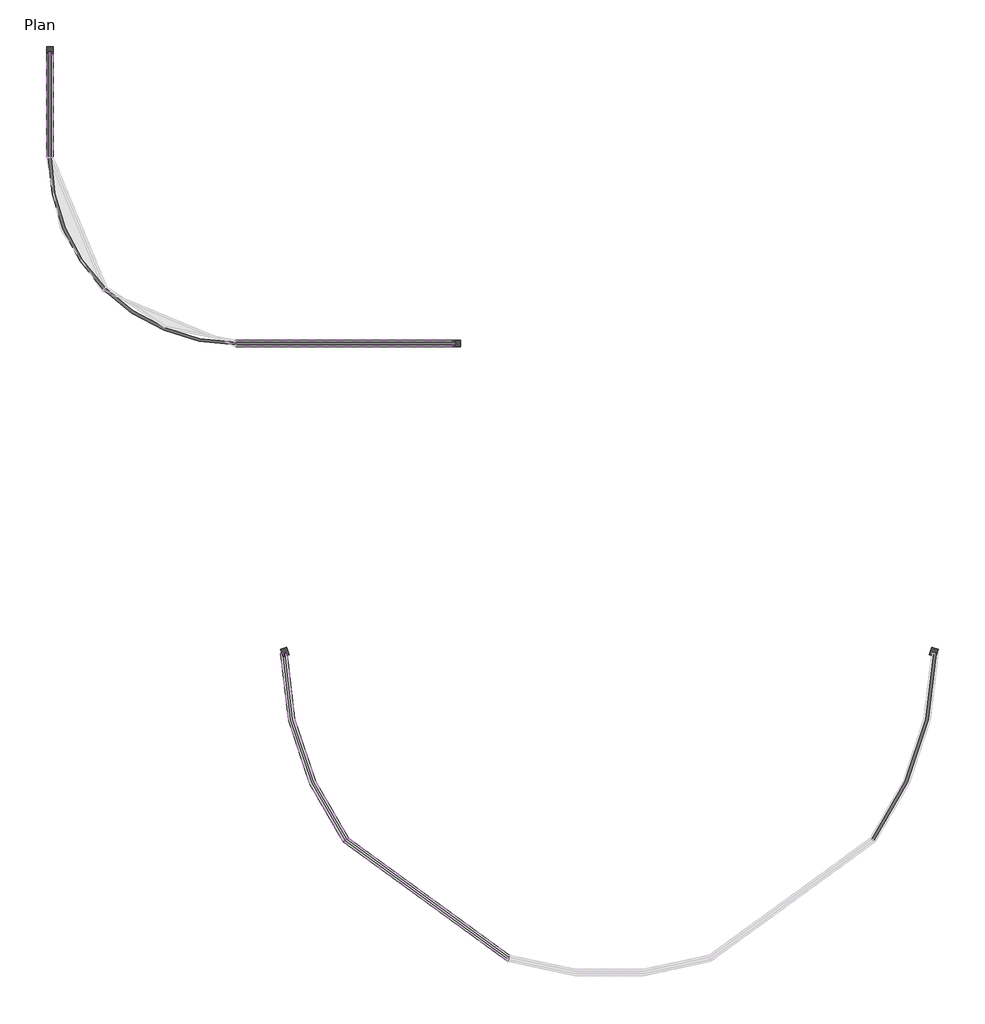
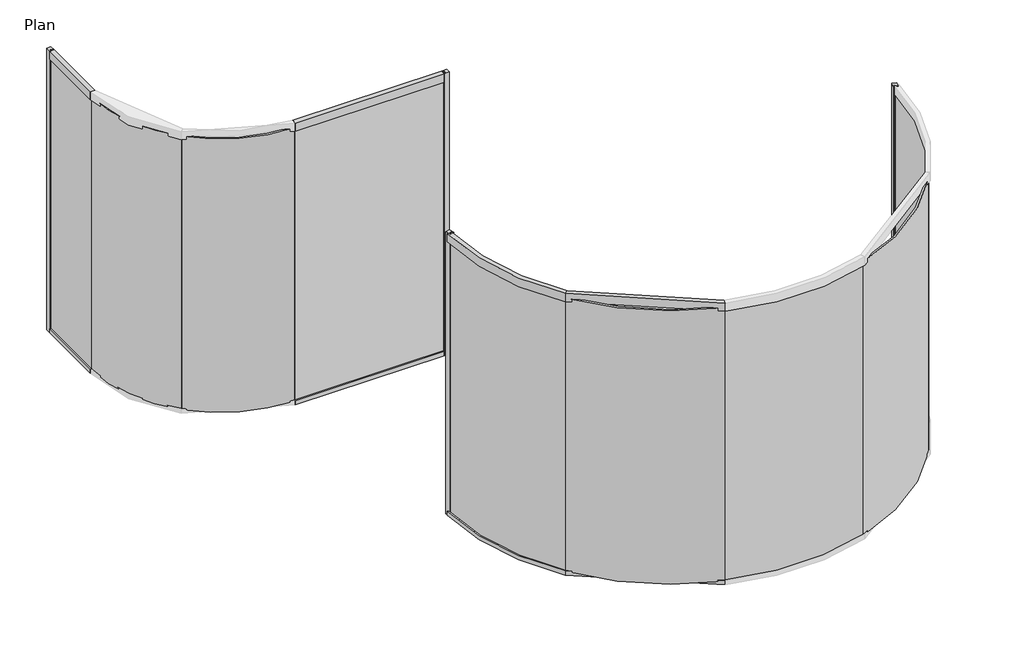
# One storey, part 1 of 2: 9 plates, 8 members, 4 proxies.
"""IFC4 building model written with IfcOpenShell, lengths in millimetres."""

from ifc_helpers import new_model, si_unit, frame, origin, place, context, project, spatial, polyline, circle_curve, transform, mapped, element, save
from ifc_brep_helpers import plane_surface, cylinder_surface, revolved_surface, advanced_brep
from components import rectangular_mullion_b852b7b1, rectangular_mullion_84a1802e, rectangular_mullion_f0d09e31, rectangular_mullion_5b5de1b9, rectangular_mullion_01cb9bb9, plate_1_2_inch_12mm_clear_tempered_de398784, plate_1_2_inch_12mm_clear_tempered_93130f93

model = new_model("IFC4")

# Units and contexts
model_context = context("Model", 3, world=origin())
ifc_project = project(units=[si_unit("LENGTHUNIT", "METRE", prefix="MILLI")], contexts=[model_context])

# Site, building, storey
site = spatial("IfcSite", under=ifc_project)
building = spatial("IfcBuilding", under=site)
storey = spatial("IfcBuildingStorey", under=building, Name="Plan", Elevation=10972.8)

# Proxies
placement = place(None, origin())
element("IfcBuildingElementProxy", 1, Name="Wall Sweeps", at=placement, inside=storey, context=model_context, shape_type="AdvancedBrep", body=[
    advanced_brep(
    [(15145.3280809, 8744.306162, 11004.55), (15153.0339677, 8749.9048166, 11004.55), (15153.0339677, 8749.9048166, 10995.025), (15163.3084836, 8757.3696893, 10995.025), (15163.3084836, 8757.3696893, 11004.55), (15171.0143704, 8762.9683438, 11004.55), (15171.0143704, 8762.9683438, 10972.8), (15145.3280809, 8744.306162, 10972.8), (15953.3655806, 8157.2325548, 11004.55), (15953.3655806, 8157.2325548, 10972.8), (15963.1768702, 8187.4285992, 10972.8), (15963.1768702, 8187.4285992, 11004.55), (15960.2334833, 8178.3697858, 11004.55), (15960.2334833, 8178.3697858, 10995.025), (15956.3089675, 8166.2913681, 10995.025), (15956.3089675, 8166.2913681, 11004.55)],
    [
        (0, 1),
        (1, 2),
        (2, 3),
        (3, 4),
        (4, 5),
        (5, 6),
        (6, 7),
        (7, 0),
        (8, 9),
        (9, 10),
        (10, 11),
        (11, 12),
        (12, 13),
        (13, 14),
        (14, 15),
        (15, 8),
        (15, 1, circle_curve(frame((16452.7602195, 9694.2112144, 11004.55), z_axis=(0.0, 0.0, -1.0), x_axis=(-0.8090169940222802, -0.5877852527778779, 0.0)), 1606.55)),
        (0, 8, circle_curve(frame((16452.7602195, 9694.2112144, 11004.55), z_axis=(0.0, 0.0, 1.0), x_axis=(-0.8090169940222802, -0.5877852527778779, 0.0)), 1616.075)),
        (14, 2, circle_curve(frame((16452.7602195, 9694.2112144, 10995.025), z_axis=(0.0, 0.0, -1.0), x_axis=(-0.8090169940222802, -0.5877852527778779, 0.0)), 1606.55)),
        (13, 3, circle_curve(frame((16452.7602195, 9694.2112144, 10995.025), z_axis=(0.0, 0.0, -1.0), x_axis=(-0.8090169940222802, -0.5877852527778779, 0.0)), 1593.85)),
        (12, 4, circle_curve(frame((16452.7602195, 9694.2112144, 11004.55), z_axis=(0.0, 0.0, -1.0), x_axis=(-0.8090169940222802, -0.5877852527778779, 0.0)), 1593.85)),
        (11, 5, circle_curve(frame((16452.7602195, 9694.2112144, 11004.55), z_axis=(0.0, 0.0, -1.0), x_axis=(-0.8090169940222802, -0.5877852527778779, 0.0)), 1584.325)),
        (10, 6, circle_curve(frame((16452.7602195, 9694.2112144, 10972.8), z_axis=(0.0, 0.0, -1.0), x_axis=(-0.8090169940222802, -0.5877852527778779, 0.0)), 1584.325)),
        (9, 7, circle_curve(frame((16452.7602195, 9694.2112144, 10972.8), z_axis=(0.0, 0.0, -1.0), x_axis=(-0.8090169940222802, -0.5877852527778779, 0.0)), 1616.075)),
    ],
    [
        plane_surface(frame((16452.7602195, 9694.2112144, 10972.8), z_axis=(-0.5877852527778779, 0.8090169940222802, 0.0), x_axis=(-0.8090169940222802, -0.5877852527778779, 0.0))),
        plane_surface(frame((16452.7602195, 9694.2112144, 10972.8), z_axis=(0.9510565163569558, -0.30901699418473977, 0.0), x_axis=(-0.30901699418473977, -0.9510565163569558, 0.0))),
        plane_surface(frame((16452.7602195, 9694.2112144, 11004.55), z_axis=(0.0, 0.0, 1.0), x_axis=(-0.8090169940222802, -0.5877852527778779, 0.0))),
        revolved_surface(polyline([(15153.033967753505, 8749.9048165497, 11004.55), (15153.033967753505, 8749.9048165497, 10995.025)]), (16452.7602195, 9694.2112144, 10972.8), (0.0, 0.0, 1.0)),
        plane_surface(frame((16452.7602195, 9694.2112144, 10995.025), z_axis=(0.0, 0.0, 1.0), x_axis=(-0.8090169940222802, -0.5877852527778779, 0.0))),
        cylinder_surface(frame((16452.7602195, 9694.2112144, 10972.8), z_axis=(0.0, 0.0, 1.0), x_axis=(-0.8090169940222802, -0.5877852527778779, 0.0)), 1593.85),
        revolved_surface(polyline([(15171.014370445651, 8762.968343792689, 11004.55), (15171.014370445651, 8762.968343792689, 10972.8)]), (16452.7602195, 9694.2112144, 10972.8), (0.0, 0.0, 1.0)),
        plane_surface(frame((16452.7602195, 9694.2112144, 10972.8), z_axis=(0.0, 0.0, -1.0), x_axis=(-0.8090169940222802, -0.5877852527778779, 0.0))),
        cylinder_surface(frame((16452.7602195, 9694.2112144, 10972.8), z_axis=(0.0, 0.0, 1.0), x_axis=(-0.8090169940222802, -0.5877852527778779, 0.0)), 1616.075),
    ],
    [
        (0, [[1, 2, 3, 4, 5, 6, 7, 8]]),
        (1, [[9, 10, 11, 12, 13, 14, 15, 16]]),
        (2, [[17, -1, 18, -16]]),
        (3, [[19, -2, -17, -15]]),
        (4, [[20, -3, -19, -14]]),
        (5, [[21, -4, -20, -13]]),
        (2, [[22, -5, -21, -12]]),
        (6, [[23, -6, -22, -11]]),
        (7, [[24, -7, -23, -10]]),
        (8, [[-18, -8, -24, -9]]),
    ],
),
])
element("IfcBuildingElementProxy", 2, Name="Wall Sweeps", at=placement, inside=storey, context=model_context, shape_type="AdvancedBrep", body=[
    advanced_brep(
    [(15171.0143704, 8762.9683438, 13042.9), (15163.3084836, 8757.3696893, 13042.9), (15163.3084836, 8757.3696893, 13065.125), (15153.0339677, 8749.9048166, 13065.125), (15153.0339677, 8749.9048166, 13042.9), (15145.3280809, 8744.306162, 13042.9), (15145.3280809, 8744.306162, 13106.4), (15171.0143704, 8762.9683438, 13106.4), (15963.1768702, 8187.4285992, 13042.9), (15963.1768702, 8187.4285992, 13106.4), (15953.3655806, 8157.2325548, 13106.4), (15953.3655806, 8157.2325548, 13042.9), (15956.3089675, 8166.2913681, 13042.9), (15956.3089675, 8166.2913681, 13065.125), (15960.2334833, 8178.3697858, 13065.125), (15960.2334833, 8178.3697858, 13042.9)],
    [
        (0, 1),
        (1, 2),
        (2, 3),
        (3, 4),
        (4, 5),
        (5, 6),
        (6, 7),
        (7, 0),
        (8, 9),
        (9, 10),
        (10, 11),
        (11, 12),
        (12, 13),
        (13, 14),
        (14, 15),
        (15, 8),
        (15, 1, circle_curve(frame((16452.7602195, 9694.2112144, 13042.9), z_axis=(0.0, 0.0, -1.0), x_axis=(-0.8090169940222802, -0.5877852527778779, 0.0)), 1593.85)),
        (0, 8, circle_curve(frame((16452.7602195, 9694.2112144, 13042.9), z_axis=(0.0, 0.0, 1.0), x_axis=(-0.8090169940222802, -0.5877852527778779, 0.0)), 1584.325)),
        (14, 2, circle_curve(frame((16452.7602195, 9694.2112144, 13065.125), z_axis=(0.0, 0.0, -1.0), x_axis=(-0.8090169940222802, -0.5877852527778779, 0.0)), 1593.85)),
        (13, 3, circle_curve(frame((16452.7602195, 9694.2112144, 13065.125), z_axis=(0.0, 0.0, -1.0), x_axis=(-0.8090169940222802, -0.5877852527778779, 0.0)), 1606.55)),
        (12, 4, circle_curve(frame((16452.7602195, 9694.2112144, 13042.9), z_axis=(0.0, 0.0, -1.0), x_axis=(-0.8090169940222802, -0.5877852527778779, 0.0)), 1606.55)),
        (11, 5, circle_curve(frame((16452.7602195, 9694.2112144, 13042.9), z_axis=(0.0, 0.0, -1.0), x_axis=(-0.8090169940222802, -0.5877852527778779, 0.0)), 1616.075)),
        (10, 6, circle_curve(frame((16452.7602195, 9694.2112144, 13106.4), z_axis=(0.0, 0.0, -1.0), x_axis=(-0.8090169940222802, -0.5877852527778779, 0.0)), 1616.075)),
        (9, 7, circle_curve(frame((16452.7602195, 9694.2112144, 13106.4), z_axis=(0.0, 0.0, -1.0), x_axis=(-0.8090169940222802, -0.5877852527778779, 0.0)), 1584.325)),
    ],
    [
        plane_surface(frame((16452.7602195, 9694.2112144, 13106.4), z_axis=(-0.5877852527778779, 0.8090169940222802, 0.0), x_axis=(-0.8090169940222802, -0.5877852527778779, 0.0))),
        plane_surface(frame((16452.7602195, 9694.2112144, 13106.4), z_axis=(0.9510565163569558, -0.30901699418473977, 0.0), x_axis=(-0.30901699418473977, -0.9510565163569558, 0.0))),
        plane_surface(frame((16452.7602195, 9694.2112144, 13042.9), z_axis=(0.0, 0.0, -1.0), x_axis=(-0.8090169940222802, -0.5877852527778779, 0.0))),
        cylinder_surface(frame((16452.7602195, 9694.2112144, 13106.4), z_axis=(0.0, 0.0, 1.0), x_axis=(-0.8090169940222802, -0.5877852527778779, 0.0)), 1593.85),
        plane_surface(frame((16452.7602195, 9694.2112144, 13065.125), z_axis=(0.0, 0.0, -1.0), x_axis=(-0.8090169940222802, -0.5877852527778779, 0.0))),
        revolved_surface(polyline([(15153.033967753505, 8749.9048165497, 13065.125), (15153.033967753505, 8749.9048165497, 13042.9)]), (16452.7602195, 9694.2112144, 13106.4), (0.0, 0.0, 1.0)),
        cylinder_surface(frame((16452.7602195, 9694.2112144, 13106.4), z_axis=(0.0, 0.0, 1.0), x_axis=(-0.8090169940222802, -0.5877852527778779, 0.0)), 1616.075),
        plane_surface(frame((16452.7602195, 9694.2112144, 13106.4), z_axis=(0.0, 0.0, 1.0), x_axis=(-0.8090169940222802, -0.5877852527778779, 0.0))),
        revolved_surface(polyline([(15171.014370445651, 8762.968343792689, 13106.4), (15171.014370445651, 8762.968343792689, 13042.9)]), (16452.7602195, 9694.2112144, 13106.4), (0.0, 0.0, 1.0)),
    ],
    [
        (0, [[1, 2, 3, 4, 5, 6, 7, 8]]),
        (1, [[9, 10, 11, 12, 13, 14, 15, 16]]),
        (2, [[17, -1, 18, -16]]),
        (3, [[19, -2, -17, -15]]),
        (4, [[20, -3, -19, -14]]),
        (5, [[21, -4, -20, -13]]),
        (2, [[22, -5, -21, -12]]),
        (6, [[23, -6, -22, -11]]),
        (7, [[24, -7, -23, -10]]),
        (8, [[-18, -8, -24, -9]]),
    ],
),
])
element("IfcBuildingElementProxy", 3, Name="Wall Sweeps", at=placement, inside=storey, context=model_context, shape_type="AdvancedBrep", body=[
    advanced_brep(
    [(14836.8711536, 9669.6972931, 11004.55), (14846.3950577, 9669.8417759, 11004.55), (14846.3950577, 9669.8417759, 10995.025), (14859.0935965, 9670.0344197, 10995.025), (14859.0935965, 9670.0344197, 11004.55), (14868.6175007, 9670.1789026, 11004.55), (14868.6175007, 9670.1789026, 10972.8), (14836.8711536, 9669.6972931, 10972.8), (15145.3280809, 8744.306162, 11004.55), (15145.3280809, 8744.306162, 10972.8), (15171.0143704, 8762.9683438, 10972.8), (15171.0143704, 8762.9683438, 11004.55), (15163.3084836, 8757.3696893, 11004.55), (15163.3084836, 8757.3696893, 10995.025), (15153.0339677, 8749.9048166, 10995.025), (15153.0339677, 8749.9048166, 11004.55)],
    [
        (0, 1),
        (1, 2),
        (2, 3),
        (3, 4),
        (4, 5),
        (5, 6),
        (6, 7),
        (7, 0),
        (8, 9),
        (9, 10),
        (10, 11),
        (11, 12),
        (12, 13),
        (13, 14),
        (14, 15),
        (15, 8),
        (15, 1, circle_curve(frame((16452.7602195, 9694.2112144, 11004.55), z_axis=(0.0, 0.0, -1.0), x_axis=(-0.9998849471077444, -0.015168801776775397, 0.0)), 1606.55)),
        (0, 8, circle_curve(frame((16452.7602195, 9694.2112144, 11004.55), z_axis=(0.0, 0.0, 1.0), x_axis=(-0.9998849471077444, -0.015168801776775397, 0.0)), 1616.075)),
        (14, 2, circle_curve(frame((16452.7602195, 9694.2112144, 10995.025), z_axis=(0.0, 0.0, -1.0), x_axis=(-0.9998849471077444, -0.015168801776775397, 0.0)), 1606.55)),
        (13, 3, circle_curve(frame((16452.7602195, 9694.2112144, 10995.025), z_axis=(0.0, 0.0, -1.0), x_axis=(-0.9998849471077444, -0.015168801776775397, 0.0)), 1593.85)),
        (12, 4, circle_curve(frame((16452.7602195, 9694.2112144, 11004.55), z_axis=(0.0, 0.0, -1.0), x_axis=(-0.9998849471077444, -0.015168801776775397, 0.0)), 1593.85)),
        (11, 5, circle_curve(frame((16452.7602195, 9694.2112144, 11004.55), z_axis=(0.0, 0.0, -1.0), x_axis=(-0.9998849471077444, -0.015168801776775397, 0.0)), 1584.325)),
        (10, 6, circle_curve(frame((16452.7602195, 9694.2112144, 10972.8), z_axis=(0.0, 0.0, -1.0), x_axis=(-0.9998849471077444, -0.015168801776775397, 0.0)), 1584.325)),
        (9, 7, circle_curve(frame((16452.7602195, 9694.2112144, 10972.8), z_axis=(0.0, 0.0, -1.0), x_axis=(-0.9998849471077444, -0.015168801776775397, 0.0)), 1616.075)),
    ],
    [
        plane_surface(frame((16452.7602195, 9694.2112144, 10972.8), z_axis=(-0.015168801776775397, 0.9998849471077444, 0.0), x_axis=(-0.9998849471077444, -0.015168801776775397, 0.0))),
        plane_surface(frame((16452.7602195, 9694.2112144, 10972.8), z_axis=(0.587785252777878, -0.8090169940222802, 0.0), x_axis=(-0.8090169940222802, -0.587785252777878, 0.0))),
        plane_surface(frame((16452.7602195, 9694.2112144, 11004.55), z_axis=(0.0, 0.0, 1.0), x_axis=(-0.9998849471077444, -0.015168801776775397, 0.0))),
        revolved_surface(polyline([(14846.395057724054, 9669.841775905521, 11004.55), (14846.395057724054, 9669.841775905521, 10995.025)]), (16452.7602195, 9694.2112144, 10972.8), (0.0, 0.0, 1.0)),
        plane_surface(frame((16452.7602195, 9694.2112144, 10995.025), z_axis=(0.0, 0.0, 1.0), x_axis=(-0.9998849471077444, -0.015168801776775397, 0.0))),
        cylinder_surface(frame((16452.7602195, 9694.2112144, 10972.8), z_axis=(0.0, 0.0, 1.0), x_axis=(-0.9998849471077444, -0.015168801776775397, 0.0)), 1593.85),
        revolved_surface(polyline([(14868.617500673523, 9670.178902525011, 11004.55), (14868.617500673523, 9670.178902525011, 10972.8)]), (16452.7602195, 9694.2112144, 10972.8), (0.0, 0.0, 1.0)),
        plane_surface(frame((16452.7602195, 9694.2112144, 10972.8), z_axis=(0.0, 0.0, -1.0), x_axis=(-0.9998849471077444, -0.015168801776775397, 0.0))),
        cylinder_surface(frame((16452.7602195, 9694.2112144, 10972.8), z_axis=(0.0, 0.0, 1.0), x_axis=(-0.9998849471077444, -0.015168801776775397, 0.0)), 1616.075),
    ],
    [
        (0, [[1, 2, 3, 4, 5, 6, 7, 8]]),
        (1, [[9, 10, 11, 12, 13, 14, 15, 16]]),
        (2, [[17, -1, 18, -16]]),
        (3, [[19, -2, -17, -15]]),
        (4, [[20, -3, -19, -14]]),
        (5, [[21, -4, -20, -13]]),
        (2, [[22, -5, -21, -12]]),
        (6, [[23, -6, -22, -11]]),
        (7, [[24, -7, -23, -10]]),
        (8, [[-18, -8, -24, -9]]),
    ],
),
])
element("IfcBuildingElementProxy", 4, Name="Wall Sweeps", at=placement, inside=storey, context=model_context, shape_type="AdvancedBrep", body=[
    advanced_brep(
    [(14868.6175007, 9670.1789026, 13042.9), (14859.0935965, 9670.0344197, 13042.9), (14859.0935965, 9670.0344197, 13065.125), (14846.3950577, 9669.8417759, 13065.125), (14846.3950577, 9669.8417759, 13042.9), (14836.8711536, 9669.6972931, 13042.9), (14836.8711536, 9669.6972931, 13106.4), (14868.6175007, 9670.1789026, 13106.4), (15171.0143704, 8762.9683438, 13042.9), (15171.0143704, 8762.9683438, 13106.4), (15145.3280809, 8744.306162, 13106.4), (15145.3280809, 8744.306162, 13042.9), (15153.0339677, 8749.9048166, 13042.9), (15153.0339677, 8749.9048166, 13065.125), (15163.3084836, 8757.3696893, 13065.125), (15163.3084836, 8757.3696893, 13042.9)],
    [
        (0, 1),
        (1, 2),
        (2, 3),
        (3, 4),
        (4, 5),
        (5, 6),
        (6, 7),
        (7, 0),
        (8, 9),
        (9, 10),
        (10, 11),
        (11, 12),
        (12, 13),
        (13, 14),
        (14, 15),
        (15, 8),
        (15, 1, circle_curve(frame((16452.7602195, 9694.2112144, 13042.9), z_axis=(0.0, 0.0, -1.0), x_axis=(-0.9998849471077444, -0.015168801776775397, 0.0)), 1593.85)),
        (0, 8, circle_curve(frame((16452.7602195, 9694.2112144, 13042.9), z_axis=(0.0, 0.0, 1.0), x_axis=(-0.9998849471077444, -0.015168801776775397, 0.0)), 1584.325)),
        (14, 2, circle_curve(frame((16452.7602195, 9694.2112144, 13065.125), z_axis=(0.0, 0.0, -1.0), x_axis=(-0.9998849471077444, -0.015168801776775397, 0.0)), 1593.85)),
        (13, 3, circle_curve(frame((16452.7602195, 9694.2112144, 13065.125), z_axis=(0.0, 0.0, -1.0), x_axis=(-0.9998849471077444, -0.015168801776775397, 0.0)), 1606.55)),
        (12, 4, circle_curve(frame((16452.7602195, 9694.2112144, 13042.9), z_axis=(0.0, 0.0, -1.0), x_axis=(-0.9998849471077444, -0.015168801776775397, 0.0)), 1606.55)),
        (11, 5, circle_curve(frame((16452.7602195, 9694.2112144, 13042.9), z_axis=(0.0, 0.0, -1.0), x_axis=(-0.9998849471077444, -0.015168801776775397, 0.0)), 1616.075)),
        (10, 6, circle_curve(frame((16452.7602195, 9694.2112144, 13106.4), z_axis=(0.0, 0.0, -1.0), x_axis=(-0.9998849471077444, -0.015168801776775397, 0.0)), 1616.075)),
        (9, 7, circle_curve(frame((16452.7602195, 9694.2112144, 13106.4), z_axis=(0.0, 0.0, -1.0), x_axis=(-0.9998849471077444, -0.015168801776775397, 0.0)), 1584.325)),
    ],
    [
        plane_surface(frame((16452.7602195, 9694.2112144, 13106.4), z_axis=(-0.015168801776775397, 0.9998849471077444, 0.0), x_axis=(-0.9998849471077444, -0.015168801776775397, 0.0))),
        plane_surface(frame((16452.7602195, 9694.2112144, 13106.4), z_axis=(0.587785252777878, -0.8090169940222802, 0.0), x_axis=(-0.8090169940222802, -0.587785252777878, 0.0))),
        plane_surface(frame((16452.7602195, 9694.2112144, 13042.9), z_axis=(0.0, 0.0, -1.0), x_axis=(-0.9998849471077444, -0.015168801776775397, 0.0))),
        cylinder_surface(frame((16452.7602195, 9694.2112144, 13106.4), z_axis=(0.0, 0.0, 1.0), x_axis=(-0.9998849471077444, -0.015168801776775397, 0.0)), 1593.85),
        plane_surface(frame((16452.7602195, 9694.2112144, 13065.125), z_axis=(0.0, 0.0, -1.0), x_axis=(-0.9998849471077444, -0.015168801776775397, 0.0))),
        revolved_surface(polyline([(14846.395057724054, 9669.841775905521, 13065.125), (14846.395057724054, 9669.841775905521, 13042.9)]), (16452.7602195, 9694.2112144, 13106.4), (0.0, 0.0, 1.0)),
        cylinder_surface(frame((16452.7602195, 9694.2112144, 13106.4), z_axis=(0.0, 0.0, 1.0), x_axis=(-0.9998849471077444, -0.015168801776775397, 0.0)), 1616.075),
        plane_surface(frame((16452.7602195, 9694.2112144, 13106.4), z_axis=(0.0, 0.0, 1.0), x_axis=(-0.9998849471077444, -0.015168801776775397, 0.0))),
        revolved_surface(polyline([(14868.617500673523, 9670.178902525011, 13106.4), (14868.617500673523, 9670.178902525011, 13042.9)]), (16452.7602195, 9694.2112144, 13106.4), (0.0, 0.0, 1.0)),
    ],
    [
        (0, [[1, 2, 3, 4, 5, 6, 7, 8]]),
        (1, [[9, 10, 11, 12, 13, 14, 15, 16]]),
        (2, [[17, -1, 18, -16]]),
        (3, [[19, -2, -17, -15]]),
        (4, [[20, -3, -19, -14]]),
        (5, [[21, -4, -20, -13]]),
        (2, [[22, -5, -21, -12]]),
        (6, [[23, -6, -22, -11]]),
        (7, [[24, -7, -23, -10]]),
        (8, [[-18, -8, -24, -9]]),
    ],
),
])

# Members
rectangular_mullion_shape = rectangular_mullion_b852b7b1(model_context)
element("IfcMember", 5, ObjectType="Rectangular Mullion : Melius SG Wall Start Left", at=placement, inside=storey, context=model_context, shape_type="MappedRepresentation", body=[
    mapped(rectangular_mullion_shape, transform((13702.9927954, 12650.0300202, 13106.4), x_axis=(0.0, 1.0, 0.0), y_axis=(-1.0, 0.0, 0.0), z_axis=(0.0, 0.0, 1.0))),
])
element("IfcMember", 6, ObjectType="Rectangular Mullion : Melius SG Wall Start Left", at=placement, inside=storey, context=model_context, shape_type="MappedRepresentation", body=[
    mapped(rectangular_mullion_shape, transform((15721.2490208, 11192.3044376, 13106.4), x_axis=(1.0, 0.0, 0.0), y_axis=(0.0, 1.0, 0.0), z_axis=(0.0, 0.0, 1.0))),
])
rectangular_mullion_2_shape = rectangular_mullion_84a1802e(model_context)
element("IfcMember", 7, ObjectType="Rectangular Mullion : Melius SG Top Rail", at=placement, inside=storey, context=model_context, shape_type="MappedRepresentation", body=[
    mapped(rectangular_mullion_2_shape, transform((13702.9927954, 12106.7044376, 13106.4), x_axis=(0.0, 0.0, 1.0), y_axis=(-1.0, 0.0, 0.0), z_axis=(0.0, -1.0, 0.0))),
])
rectangular_mullion_3_shape = rectangular_mullion_f0d09e31(model_context)
element("IfcMember", 8, ObjectType="Rectangular Mullion : Melius SG Base Rail", at=placement, inside=storey, context=model_context, shape_type="MappedRepresentation", body=[
    mapped(rectangular_mullion_3_shape, transform((13702.9927954, 12611.9300202, 10972.8), x_axis=(0.0, 0.0, -1.0), y_axis=(-1.0, 0.0, 0.0), z_axis=(0.0, 1.0, 0.0))),
])
rectangular_mullion_4_shape = rectangular_mullion_5b5de1b9(model_context)
element("IfcMember", 9, ObjectType="Rectangular Mullion : Melius SG Top Rail", at=placement, inside=storey, context=model_context, shape_type="MappedRepresentation", body=[
    mapped(rectangular_mullion_4_shape, transform((14617.3927954, 11192.3044376, 13106.4), x_axis=(0.0, 0.0, 1.0), y_axis=(0.0, 1.0, 0.0), z_axis=(-1.0, 0.0, 0.0))),
])
rectangular_mullion_5_shape = rectangular_mullion_01cb9bb9(model_context)
element("IfcMember", 10, ObjectType="Rectangular Mullion : Melius SG Base Rail", at=placement, inside=storey, context=model_context, shape_type="MappedRepresentation", body=[
    mapped(rectangular_mullion_5_shape, transform((15683.1490208, 11192.3044376, 10972.8), x_axis=(0.0, 0.0, -1.0), y_axis=(0.0, 1.0, 0.0), z_axis=(1.0, 0.0, 0.0))),
])
element("IfcMember", 11, ObjectType="Rectangular Mullion : Melius SG Wall Start Right", at=placement, inside=storey, context=model_context, shape_type="MappedRepresentation", body=[
    mapped(rectangular_mullion_shape, transform((18052.9602195, 9694.2112144, 10972.8), x_axis=(0.3090169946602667, 0.9510565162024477, 0.0), y_axis=(0.9510565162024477, -0.3090169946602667, 0.0), z_axis=(0.0, 0.0, -1.0))),
])
element("IfcMember", 12, ObjectType="Rectangular Mullion : Melius SG Wall Start Left", at=placement, inside=storey, context=model_context, shape_type="MappedRepresentation", body=[
    mapped(rectangular_mullion_shape, transform((14852.5602195, 9694.2112144, 13106.4), x_axis=(-0.3090169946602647, 0.9510565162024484, 0.0), y_axis=(-0.9510565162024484, -0.3090169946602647, 0.0), z_axis=(0.0, 0.0, 1.0))),
])

# Plates
element("IfcPlate", 13, ObjectType="1/2 Inch (12mm) Clear Tempered", at=placement, inside=storey, context=model_context, shape_type="AdvancedBrep", body=[
    advanced_brep(
    [(14617.3927954, 11198.6544376, 11004.55), (14617.3927954, 11198.6544376, 10995.025), (13975.3044827, 11464.616125, 10995.025), (13975.3044827, 11464.616125, 11004.55), (13975.3044827, 11464.616125, 13042.9), (13975.3044827, 11464.616125, 13065.125), (14617.3927954, 11198.6544376, 13065.125), (14617.3927954, 11198.6544376, 13042.9), (13966.3242266, 11455.6358688, 10995.025), (13966.3242266, 11455.6358688, 11004.55), (13966.3242266, 11455.6358688, 13042.9), (13966.3242266, 11455.6358688, 13065.125), (14617.3927954, 11185.9544376, 10995.025), (14617.3927954, 11185.9544376, 11004.55), (14617.3927954, 11185.9544376, 13042.9), (14617.3927954, 11185.9544376, 13065.125)],
    [
        (0, 1),
        (1, 2, circle_curve(frame((14617.3927954, 12106.7044376, 10995.025), z_axis=(0.0, 0.0, -1.0), x_axis=(-1.0, 0.0, 0.0)), 908.05)),
        (2, 3),
        (3, 4),
        (4, 5),
        (5, 6, circle_curve(frame((14617.3927954, 12106.7044376, 13065.125), z_axis=(0.0, 0.0, 1.0), x_axis=(-1.0, 0.0, 0.0)), 908.05)),
        (6, 7),
        (7, 0),
        (2, 8),
        (8, 9),
        (9, 10),
        (10, 11),
        (11, 5),
        (8, 12, circle_curve(frame((14617.3927954, 12106.7044376, 10995.025), z_axis=(0.0, 0.0, 1.0), x_axis=(-1.0, 0.0, 0.0)), 920.75)),
        (12, 13),
        (13, 14),
        (14, 15),
        (15, 11, circle_curve(frame((14617.3927954, 12106.7044376, 13065.125), z_axis=(0.0, 0.0, -1.0), x_axis=(-1.0, 0.0, 0.0)), 920.75)),
        (6, 15),
        (12, 1),
    ],
    [
        revolved_surface(polyline([(13709.3427954, 12106.7044376, 10995.025), (13709.3427954, 12106.7044376, 13065.125)]), (14617.3927954, 12106.7044376, 10972.8), (0.0, 0.0, -1.0)),
        plane_surface(frame((13975.3044827, 11464.616125, 13106.4), z_axis=(-0.7071067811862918, 0.7071067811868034, 0.0), x_axis=(0.0, 0.0, -1.0))),
        cylinder_surface(frame((14617.3927954, 12106.7044376, 10972.8), z_axis=(0.0, 0.0, 1.0), x_axis=(-1.0, 0.0, 0.0)), 920.75),
        plane_surface(frame((14617.3927954, 11185.9544376, 13106.4), z_axis=(1.0, 0.0, 0.0), x_axis=(0.0, 0.0, -1.0))),
        plane_surface(frame((14617.3927954, 12106.7044376, 10995.025), z_axis=(0.0, 0.0, -1.0), x_axis=(-0.7071067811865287, -0.7071067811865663, 0.0))),
        plane_surface(frame((14617.3927954, 12106.7044376, 13065.125), z_axis=(0.0, 0.0, 1.0), x_axis=(-0.7071067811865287, -0.7071067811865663, 0.0))),
    ],
    [
        (0, [[1, 2, 3, 4, 5, 6, 7, 8]]),
        (1, [[-3, 9, 10, 11, 12, 13, -5, -4]]),
        (2, [[-10, 14, 15, 16, 17, 18, -12, -11]]),
        (3, [[-1, -8, -7, 19, -17, -16, -15, 20]]),
        (4, [[-2, -20, -14, -9]]),
        (5, [[-6, -13, -18, -19]]),
    ],
),
])
element("IfcPlate", 14, ObjectType="1/2 Inch (12mm) Clear Tempered", at=placement, inside=storey, context=model_context, shape_type="AdvancedBrep", body=[
    advanced_brep(
    [(13975.3044827, 11464.616125, 11004.55), (13975.3044827, 11464.616125, 10995.025), (13709.3427954, 12106.7044376, 10995.025), (13709.3427954, 12106.7044376, 11004.55), (13709.3427954, 12106.7044376, 13042.9), (13709.3427954, 12106.7044376, 13065.125), (13975.3044827, 11464.616125, 13065.125), (13975.3044827, 11464.616125, 13042.9), (13696.6427954, 12106.7044376, 10995.025), (13696.6427954, 12106.7044376, 11004.55), (13696.6427954, 12106.7044376, 13042.9), (13696.6427954, 12106.7044376, 13065.125), (13966.3242266, 11455.6358688, 10995.025), (13966.3242266, 11455.6358688, 11004.55), (13966.3242266, 11455.6358688, 13042.9), (13966.3242266, 11455.6358688, 13065.125)],
    [
        (0, 1),
        (1, 2, circle_curve(frame((14617.3927954, 12106.7044376, 10995.025), z_axis=(0.0, 0.0, -1.0), x_axis=(-1.0, 0.0, 0.0)), 908.05)),
        (2, 3),
        (3, 4),
        (4, 5),
        (5, 6, circle_curve(frame((14617.3927954, 12106.7044376, 13065.125), z_axis=(0.0, 0.0, 1.0), x_axis=(-1.0, 0.0, 0.0)), 908.05)),
        (6, 7),
        (7, 0),
        (2, 8),
        (8, 9),
        (9, 10),
        (10, 11),
        (11, 5),
        (8, 12, circle_curve(frame((14617.3927954, 12106.7044376, 10995.025), z_axis=(0.0, 0.0, 1.0), x_axis=(-1.0, 0.0, 0.0)), 920.75)),
        (12, 13),
        (13, 14),
        (14, 15),
        (15, 11, circle_curve(frame((14617.3927954, 12106.7044376, 13065.125), z_axis=(0.0, 0.0, -1.0), x_axis=(-1.0, 0.0, 0.0)), 920.75)),
        (6, 15),
        (12, 1),
    ],
    [
        revolved_surface(polyline([(13709.3427954, 12106.7044376, 10995.025), (13709.3427954, 12106.7044376, 13065.125)]), (14617.3927954, 12106.7044376, 10972.8), (0.0, 0.0, -1.0)),
        plane_surface(frame((13709.3427954, 12106.7044376, 13106.4), z_axis=(0.0, 1.0, 0.0), x_axis=(0.0, 0.0, -1.0))),
        cylinder_surface(frame((14617.3927954, 12106.7044376, 10972.8), z_axis=(0.0, 0.0, 1.0), x_axis=(-1.0, 0.0, 0.0)), 920.75),
        plane_surface(frame((13966.3242266, 11455.6358688, 13106.4), z_axis=(0.7071067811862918, -0.7071067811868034, 0.0), x_axis=(0.0, 0.0, -1.0))),
        plane_surface(frame((14617.3927954, 12106.7044376, 10995.025), z_axis=(0.0, 0.0, -1.0), x_axis=(-1.0, 0.0, 0.0))),
        plane_surface(frame((14617.3927954, 12106.7044376, 13065.125), z_axis=(0.0, 0.0, 1.0), x_axis=(-1.0, 0.0, 0.0))),
    ],
    [
        (0, [[1, 2, 3, 4, 5, 6, 7, 8]]),
        (1, [[-3, 9, 10, 11, 12, 13, -5, -4]]),
        (2, [[-10, 14, 15, 16, 17, 18, -12, -11]]),
        (3, [[-1, -8, -7, 19, -17, -16, -15, 20]]),
        (4, [[-2, -20, -14, -9]]),
        (5, [[-6, -13, -18, -19]]),
    ],
),
])
element("IfcPlate", 15, ObjectType="1/2 Inch (12mm) Clear Tempered", at=placement, inside=storey, context=model_context, shape_type="AdvancedBrep", body=[
    advanced_brep(
    [(18046.4268424, 9670.0344197, 11004.55), (18046.4268424, 9670.0344197, 10995.025), (17742.2119554, 8757.3696893, 10995.025), (17742.2119554, 8757.3696893, 11004.55), (17742.2119554, 8757.3696893, 13042.9), (17742.2119554, 8757.3696893, 13065.125), (18046.4268424, 9670.0344197, 13065.125), (18046.4268424, 9670.0344197, 13042.9), (17752.4864712, 8749.9048166, 10995.025), (17752.4864712, 8749.9048166, 11004.55), (17752.4864712, 8749.9048166, 13042.9), (17752.4864712, 8749.9048166, 13065.125), (18059.1253813, 9669.8417759, 10995.025), (18059.1253813, 9669.8417759, 11004.55), (18059.1253813, 9669.8417759, 13042.9), (18059.1253813, 9669.8417759, 13065.125)],
    [
        (0, 1),
        (1, 2, circle_curve(frame((16452.7602195, 9694.2112144, 10995.025), z_axis=(0.0, 0.0, -1.0), x_axis=(1.0, 0.0, 0.0)), 1593.85)),
        (2, 3),
        (3, 4),
        (4, 5),
        (5, 6, circle_curve(frame((16452.7602195, 9694.2112144, 13065.125), z_axis=(0.0, 0.0, 1.0), x_axis=(1.0, 0.0, 0.0)), 1593.85)),
        (6, 7),
        (7, 0),
        (2, 8),
        (8, 9),
        (9, 10),
        (10, 11),
        (11, 5),
        (8, 12, circle_curve(frame((16452.7602195, 9694.2112144, 10995.025), z_axis=(0.0, 0.0, 1.0), x_axis=(1.0, 0.0, 0.0)), 1606.55)),
        (12, 13),
        (13, 14),
        (14, 15),
        (15, 11, circle_curve(frame((16452.7602195, 9694.2112144, 13065.125), z_axis=(0.0, 0.0, -1.0), x_axis=(1.0, 0.0, 0.0)), 1606.55)),
        (6, 15),
        (12, 1),
    ],
    [
        revolved_surface(polyline([(18046.6102195, 9694.2112144, 10995.025), (18046.6102195, 9694.2112144, 13065.125)]), (16452.7602195, 9694.2112144, 10972.8), (0.0, 0.0, -1.0)),
        plane_surface(frame((17742.2119554, 8757.3696893, 13106.4), z_axis=(-0.5877852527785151, -0.8090169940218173, 0.0), x_axis=(0.0, 0.0, -1.0))),
        cylinder_surface(frame((16452.7602195, 9694.2112144, 10972.8), z_axis=(0.0, 0.0, 1.0), x_axis=(1.0, 0.0, 0.0)), 1606.55),
        plane_surface(frame((18059.1253813, 9669.8417759, 13106.4), z_axis=(0.015168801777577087, 0.9998849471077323, 0.0), x_axis=(0.0, 0.0, -1.0))),
        plane_surface(frame((16452.7602195, 9694.2112144, 10995.025), z_axis=(0.0, 0.0, -1.0), x_axis=(0.8090169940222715, -0.58778525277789, 0.0))),
        plane_surface(frame((16452.7602195, 9694.2112144, 13065.125), z_axis=(0.0, 0.0, 1.0), x_axis=(0.8090169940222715, -0.58778525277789, 0.0))),
    ],
    [
        (0, [[1, 2, 3, 4, 5, 6, 7, 8]]),
        (1, [[-3, 9, 10, 11, 12, 13, -5, -4]]),
        (2, [[-10, 14, 15, 16, 17, 18, -12, -11]]),
        (3, [[-1, -8, -7, 19, -17, -16, -15, 20]]),
        (4, [[-2, -20, -14, -9]]),
        (5, [[-6, -13, -18, -19]]),
    ],
),
])
element("IfcPlate", 16, ObjectType="1/2 Inch (12mm) Clear Tempered", at=placement, inside=storey, context=model_context, shape_type="AdvancedBrep", body=[
    advanced_brep(
    [(17742.2119554, 8757.3696893, 11004.55), (17742.2119554, 8757.3696893, 10995.025), (16945.2869557, 8178.3697858, 10995.025), (16945.2869557, 8178.3697858, 11004.55), (16945.2869557, 8178.3697858, 13042.9), (16945.2869557, 8178.3697858, 13065.125), (17742.2119554, 8757.3696893, 13065.125), (17742.2119554, 8757.3696893, 13042.9), (16949.2114715, 8166.2913681, 10995.025), (16949.2114715, 8166.2913681, 11004.55), (16949.2114715, 8166.2913681, 13042.9), (16949.2114715, 8166.2913681, 13065.125), (17752.4864712, 8749.9048166, 10995.025), (17752.4864712, 8749.9048166, 11004.55), (17752.4864712, 8749.9048166, 13042.9), (17752.4864712, 8749.9048166, 13065.125)],
    [
        (0, 1),
        (1, 2, circle_curve(frame((16452.7602195, 9694.2112144, 10995.025), z_axis=(0.0, 0.0, -1.0), x_axis=(1.0, 0.0, 0.0)), 1593.85)),
        (2, 3),
        (3, 4),
        (4, 5),
        (5, 6, circle_curve(frame((16452.7602195, 9694.2112144, 13065.125), z_axis=(0.0, 0.0, 1.0), x_axis=(1.0, 0.0, 0.0)), 1593.85)),
        (6, 7),
        (7, 0),
        (2, 8),
        (8, 9),
        (9, 10),
        (10, 11),
        (11, 5),
        (8, 12, circle_curve(frame((16452.7602195, 9694.2112144, 10995.025), z_axis=(0.0, 0.0, 1.0), x_axis=(1.0, 0.0, 0.0)), 1606.55)),
        (12, 13),
        (13, 14),
        (14, 15),
        (15, 11, circle_curve(frame((16452.7602195, 9694.2112144, 13065.125), z_axis=(0.0, 0.0, -1.0), x_axis=(1.0, 0.0, 0.0)), 1606.55)),
        (6, 15),
        (12, 1),
    ],
    [
        revolved_surface(polyline([(18046.6102195, 9694.2112144, 10995.025), (18046.6102195, 9694.2112144, 13065.125)]), (16452.7602195, 9694.2112144, 10972.8), (0.0, 0.0, -1.0)),
        plane_surface(frame((16945.2869557, 8178.3697858, 13106.4), z_axis=(-0.9510565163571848, -0.30901699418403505, 0.0), x_axis=(0.0, 0.0, -1.0))),
        cylinder_surface(frame((16452.7602195, 9694.2112144, 10972.8), z_axis=(0.0, 0.0, 1.0), x_axis=(1.0, 0.0, 0.0)), 1606.55),
        plane_surface(frame((17752.4864712, 8749.9048166, 13106.4), z_axis=(0.5877852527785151, 0.8090169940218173, 0.0), x_axis=(0.0, 0.0, -1.0))),
        plane_surface(frame((16452.7602195, 9694.2112144, 10995.025), z_axis=(0.0, 0.0, -1.0), x_axis=(0.30901699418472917, -0.9510565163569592, 0.0))),
        plane_surface(frame((16452.7602195, 9694.2112144, 13065.125), z_axis=(0.0, 0.0, 1.0), x_axis=(0.30901699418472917, -0.9510565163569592, 0.0))),
    ],
    [
        (0, [[1, 2, 3, 4, 5, 6, 7, 8]]),
        (1, [[-3, 9, 10, 11, 12, 13, -5, -4]]),
        (2, [[-10, 14, 15, 16, 17, 18, -12, -11]]),
        (3, [[-1, -8, -7, 19, -17, -16, -15, 20]]),
        (4, [[-2, -20, -14, -9]]),
        (5, [[-6, -13, -18, -19]]),
    ],
),
])
element("IfcPlate", 17, ObjectType="1/2 Inch (12mm) Clear Tempered", at=placement, inside=storey, context=model_context, shape_type="AdvancedBrep", body=[
    advanced_brep(
    [(16945.2869557, 8178.3697858, 11004.55), (16945.2869557, 8178.3697858, 10995.025), (15960.2334833, 8178.3697858, 10995.025), (15960.2334833, 8178.3697858, 11004.55), (15960.2334833, 8178.3697858, 13042.9), (15960.2334833, 8178.3697858, 13065.125), (16945.2869557, 8178.3697858, 13065.125), (16945.2869557, 8178.3697858, 13042.9), (15956.3089675, 8166.2913681, 10995.025), (15956.3089675, 8166.2913681, 11004.55), (15956.3089675, 8166.2913681, 13042.9), (15956.3089675, 8166.2913681, 13065.125), (16949.2114715, 8166.2913681, 10995.025), (16949.2114715, 8166.2913681, 11004.55), (16949.2114715, 8166.2913681, 13042.9), (16949.2114715, 8166.2913681, 13065.125)],
    [
        (0, 1),
        (1, 2, circle_curve(frame((16452.7602195, 9694.2112144, 10995.025), z_axis=(0.0, 0.0, -1.0), x_axis=(1.0, 0.0, 0.0)), 1593.85)),
        (2, 3),
        (3, 4),
        (4, 5),
        (5, 6, circle_curve(frame((16452.7602195, 9694.2112144, 13065.125), z_axis=(0.0, 0.0, 1.0), x_axis=(1.0, 0.0, 0.0)), 1593.85)),
        (6, 7),
        (7, 0),
        (2, 8),
        (8, 9),
        (9, 10),
        (10, 11),
        (11, 5),
        (8, 12, circle_curve(frame((16452.7602195, 9694.2112144, 10995.025), z_axis=(0.0, 0.0, 1.0), x_axis=(1.0, 0.0, 0.0)), 1606.55)),
        (12, 13),
        (13, 14),
        (14, 15),
        (15, 11, circle_curve(frame((16452.7602195, 9694.2112144, 13065.125), z_axis=(0.0, 0.0, -1.0), x_axis=(1.0, 0.0, 0.0)), 1606.55)),
        (6, 15),
        (12, 1),
    ],
    [
        revolved_surface(polyline([(18046.6102195, 9694.2112144, 10995.025), (18046.6102195, 9694.2112144, 13065.125)]), (16452.7602195, 9694.2112144, 10972.8), (0.0, 0.0, -1.0)),
        plane_surface(frame((15960.2334833, 8178.3697858, 13106.4), z_axis=(-0.9510565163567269, 0.3090169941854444, 0.0), x_axis=(0.0, 0.0, -1.0))),
        cylinder_surface(frame((16452.7602195, 9694.2112144, 10972.8), z_axis=(0.0, 0.0, 1.0), x_axis=(1.0, 0.0, 0.0)), 1606.55),
        plane_surface(frame((16949.2114715, 8166.2913681, 13106.4), z_axis=(0.9510565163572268, 0.3090169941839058, 0.0), x_axis=(0.0, 0.0, -1.0))),
        plane_surface(frame((16452.7602195, 9694.2112144, 10995.025), z_axis=(0.0, 0.0, -1.0), x_axis=(-0.30901699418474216, -0.951056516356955, 0.0))),
        plane_surface(frame((16452.7602195, 9694.2112144, 13065.125), z_axis=(0.0, 0.0, 1.0), x_axis=(-0.30901699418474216, -0.951056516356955, 0.0))),
    ],
    [
        (0, [[1, 2, 3, 4, 5, 6, 7, 8]]),
        (1, [[-3, 9, 10, 11, 12, 13, -5, -4]]),
        (2, [[-10, 14, 15, 16, 17, 18, -12, -11]]),
        (3, [[-1, -8, -7, 19, -17, -16, -15, 20]]),
        (4, [[-2, -20, -14, -9]]),
        (5, [[-6, -13, -18, -19]]),
    ],
),
])
element("IfcPlate", 18, ObjectType="1/2 Inch (12mm) Clear Tempered", at=placement, inside=storey, context=model_context, shape_type="AdvancedBrep", body=[
    advanced_brep(
    [(15960.2334833, 8178.3697858, 11004.55), (15960.2334833, 8178.3697858, 10995.025), (15163.3084836, 8757.3696893, 10995.025), (15163.3084836, 8757.3696893, 11004.55), (15163.3084836, 8757.3696893, 13042.9), (15163.3084836, 8757.3696893, 13065.125), (15960.2334833, 8178.3697858, 13065.125), (15960.2334833, 8178.3697858, 13042.9), (15153.0339677, 8749.9048166, 10995.025), (15153.0339677, 8749.9048166, 11004.55), (15153.0339677, 8749.9048166, 13042.9), (15153.0339677, 8749.9048166, 13065.125), (15956.3089675, 8166.2913681, 10995.025), (15956.3089675, 8166.2913681, 11004.55), (15956.3089675, 8166.2913681, 13042.9), (15956.3089675, 8166.2913681, 13065.125)],
    [
        (0, 1),
        (1, 2, circle_curve(frame((16452.7602195, 9694.2112144, 10995.025), z_axis=(0.0, 0.0, -1.0), x_axis=(1.0, 0.0, 0.0)), 1593.85)),
        (2, 3),
        (3, 4),
        (4, 5),
        (5, 6, circle_curve(frame((16452.7602195, 9694.2112144, 13065.125), z_axis=(0.0, 0.0, 1.0), x_axis=(1.0, 0.0, 0.0)), 1593.85)),
        (6, 7),
        (7, 0),
        (2, 8),
        (8, 9),
        (9, 10),
        (10, 11),
        (11, 5),
        (8, 12, circle_curve(frame((16452.7602195, 9694.2112144, 10995.025), z_axis=(0.0, 0.0, 1.0), x_axis=(1.0, 0.0, 0.0)), 1606.55)),
        (12, 13),
        (13, 14),
        (14, 15),
        (15, 11, circle_curve(frame((16452.7602195, 9694.2112144, 13065.125), z_axis=(0.0, 0.0, -1.0), x_axis=(1.0, 0.0, 0.0)), 1606.55)),
        (6, 15),
        (12, 1),
    ],
    [
        revolved_surface(polyline([(18046.6102195, 9694.2112144, 10995.025), (18046.6102195, 9694.2112144, 13065.125)]), (16452.7602195, 9694.2112144, 10972.8), (0.0, 0.0, -1.0)),
        plane_surface(frame((15163.3084836, 8757.3696893, 13106.4), z_axis=(-0.5877852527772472, 0.8090169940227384, 0.0), x_axis=(0.0, 0.0, -1.0))),
        cylinder_surface(frame((16452.7602195, 9694.2112144, 10972.8), z_axis=(0.0, 0.0, 1.0), x_axis=(1.0, 0.0, 0.0)), 1606.55),
        plane_surface(frame((15956.3089675, 8166.2913681, 13106.4), z_axis=(0.9510565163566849, -0.30901699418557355, 0.0), x_axis=(0.0, 0.0, -1.0))),
        plane_surface(frame((16452.7602195, 9694.2112144, 10995.025), z_axis=(0.0, 0.0, -1.0), x_axis=(-0.8090169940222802, -0.5877852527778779, 0.0))),
        plane_surface(frame((16452.7602195, 9694.2112144, 13065.125), z_axis=(0.0, 0.0, 1.0), x_axis=(-0.8090169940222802, -0.5877852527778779, 0.0))),
    ],
    [
        (0, [[1, 2, 3, 4, 5, 6, 7, 8]]),
        (1, [[-3, 9, 10, 11, 12, 13, -5, -4]]),
        (2, [[-10, 14, 15, 16, 17, 18, -12, -11]]),
        (3, [[-1, -8, -7, 19, -17, -16, -15, 20]]),
        (4, [[-2, -20, -14, -9]]),
        (5, [[-6, -13, -18, -19]]),
    ],
),
])
element("IfcPlate", 19, ObjectType="1/2 Inch (12mm) Clear Tempered", at=placement, inside=storey, context=model_context, shape_type="AdvancedBrep", body=[
    advanced_brep(
    [(15163.3084836, 8757.3696893, 11004.55), (15163.3084836, 8757.3696893, 10995.025), (14859.0935965, 9670.0344197, 10995.025), (14859.0935965, 9670.0344197, 11004.55), (14859.0935965, 9670.0344197, 13042.9), (14859.0935965, 9670.0344197, 13065.125), (15163.3084836, 8757.3696893, 13065.125), (15163.3084836, 8757.3696893, 13042.9), (14846.3950577, 9669.8417759, 10995.025), (14846.3950577, 9669.8417759, 11004.55), (14846.3950577, 9669.8417759, 13042.9), (14846.3950577, 9669.8417759, 13065.125), (15153.0339677, 8749.9048166, 10995.025), (15153.0339677, 8749.9048166, 11004.55), (15153.0339677, 8749.9048166, 13042.9), (15153.0339677, 8749.9048166, 13065.125)],
    [
        (0, 1),
        (1, 2, circle_curve(frame((16452.7602195, 9694.2112144, 10995.025), z_axis=(0.0, 0.0, -1.0), x_axis=(1.0, 0.0, 0.0)), 1593.85)),
        (2, 3),
        (3, 4),
        (4, 5),
        (5, 6, circle_curve(frame((16452.7602195, 9694.2112144, 13065.125), z_axis=(0.0, 0.0, 1.0), x_axis=(1.0, 0.0, 0.0)), 1593.85)),
        (6, 7),
        (7, 0),
        (2, 8),
        (8, 9),
        (9, 10),
        (10, 11),
        (11, 5),
        (8, 12, circle_curve(frame((16452.7602195, 9694.2112144, 10995.025), z_axis=(0.0, 0.0, 1.0), x_axis=(1.0, 0.0, 0.0)), 1606.55)),
        (12, 13),
        (13, 14),
        (14, 15),
        (15, 11, circle_curve(frame((16452.7602195, 9694.2112144, 13065.125), z_axis=(0.0, 0.0, -1.0), x_axis=(1.0, 0.0, 0.0)), 1606.55)),
        (6, 15),
        (12, 1),
    ],
    [
        revolved_surface(polyline([(18046.6102195, 9694.2112144, 10995.025), (18046.6102195, 9694.2112144, 13065.125)]), (16452.7602195, 9694.2112144, 10972.8), (0.0, 0.0, -1.0)),
        plane_surface(frame((14859.0935965, 9670.0344197, 13106.4), z_axis=(-0.015168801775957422, 0.9998849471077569, 0.0), x_axis=(0.0, 0.0, -1.0))),
        cylinder_surface(frame((16452.7602195, 9694.2112144, 10972.8), z_axis=(0.0, 0.0, 1.0), x_axis=(1.0, 0.0, 0.0)), 1606.55),
        plane_surface(frame((15153.0339677, 8749.9048166, 13106.4), z_axis=(0.5877852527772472, -0.8090169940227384, 0.0), x_axis=(0.0, 0.0, -1.0))),
        plane_surface(frame((16452.7602195, 9694.2112144, 10995.025), z_axis=(0.0, 0.0, -1.0), x_axis=(-0.9998849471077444, -0.015168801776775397, 0.0))),
        plane_surface(frame((16452.7602195, 9694.2112144, 13065.125), z_axis=(0.0, 0.0, 1.0), x_axis=(-0.9998849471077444, -0.015168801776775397, 0.0))),
    ],
    [
        (0, [[1, 2, 3, 4, 5, 6, 7, 8]]),
        (1, [[-3, 9, 10, 11, 12, 13, -5, -4]]),
        (2, [[-10, 14, 15, 16, 17, 18, -12, -11]]),
        (3, [[-1, -8, -7, 19, -17, -16, -15, 20]]),
        (4, [[-2, -20, -14, -9]]),
        (5, [[-6, -13, -18, -19]]),
    ],
),
])
plate_1_2_inch_12mm_clear_tempered_shape = plate_1_2_inch_12mm_clear_tempered_de398784(model_context)
element("IfcPlate", 20, ObjectType="Melius SG Panels 1/2 Inch : 1/2 Inch (12mm) Clear Tempered", at=placement, inside=storey, context=model_context, shape_type="MappedRepresentation", body=[
    mapped(plate_1_2_inch_12mm_clear_tempered_shape, transform((13702.9927954, 12365.6672289, 10995.025), x_axis=(0.0, -1.0, 0.0), y_axis=(1.0, 0.0, 0.0), z_axis=(0.0, 0.0, 1.0))),
])
plate_1_2_inch_12mm_clear_tempered_2_shape = plate_1_2_inch_12mm_clear_tempered_93130f93(model_context)
element("IfcPlate", 21, ObjectType="Melius SG Panels 1/2 Inch : 1/2 Inch (12mm) Clear Tempered", at=placement, inside=storey, context=model_context, shape_type="MappedRepresentation", body=[
    mapped(plate_1_2_inch_12mm_clear_tempered_2_shape, transform((15156.6209081, 11192.3044376, 10995.025), x_axis=(-1.0, 0.0, 0.0), y_axis=(0.0, -1.0, 0.0), z_axis=(0.0, 0.0, 1.0))),
])

save(model, "model.ifc")
